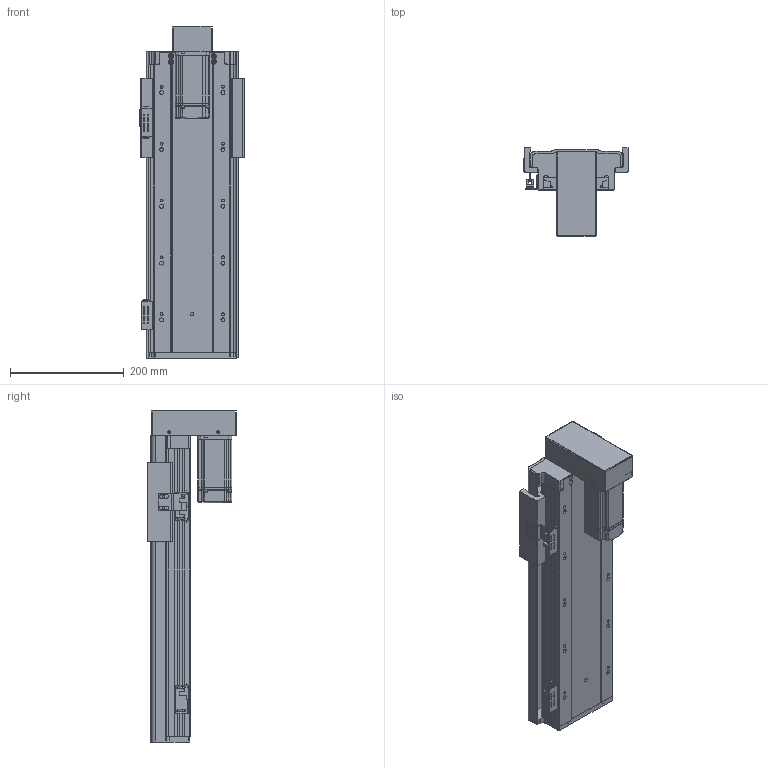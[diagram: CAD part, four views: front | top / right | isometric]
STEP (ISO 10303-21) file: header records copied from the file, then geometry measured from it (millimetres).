
FILE_DESCRIPTION (( 'STEP AP203' ), '1' );
FILE_NAME ('RY140FB-L2010-300-BK.SLDASM_300.step', '2021-02-23T02:28:28', ( '盈信电脑' ), ( '东莞市道滘镇水果街19号' ), 'SwSTEP 2.0', 'SolidWorks 2012', '' );
FILE_SCHEMA (( 'CONFIG_CONTROL_DESIGN' ));
Products named in the file (17): RY140-674嫖萇耀輸; RY140FB-L2010-300-BK.SLDASM_300; RY140FB-覜茼え; 覜茼ん674; RY140直线电机感应器674光电安装座; RY140FB-300蛌殏奻裔啣-BK; 侂狟400W侜督萇儂; RY140狟殏萇儂欶; RY140FB-20佪裝臏賑輸; RY140FB-狟殏萇儂假蚾啣; RY140FB-转折电机端支撑座(7002); 15; 滅袉蝶18-10; 滅袉蝶18-24; RY140FB-300蛌殏倰第菁釱-BK; RY140FB-綴裔啣
Assembly tree (20 placements, depth 3):
  RY140FB-L2010-300-BK.SLDASM_300
    RY140FB-300蛌殏倰第菁釱-BK
    RY140FB-綴裔啣
    滅袉蝶18-24  x2
    滅袉蝶18-10
    RY140FB-转折电机端支撑座(7002)
    侂狟400W侜督萇儂
      15
    RY140狟殏萇儂欶
    RY140FB-狟殏萇儂假蚾啣
    RY140FB-20佪裝臏賑輸
    RY140FB-300蛌殏奻裔啣-BK
    RY140-674嫖萇耀輸
      覜茼ん674  x2
      RY140直线电机感应器674光电安装座
    RY140-674嫖萇耀輸
      RY140直线电机感应器674光电安装座
      覜茼ん674
    RY140FB-覜茼え
Bounding box: 183 x 156 x 584 mm (x, y, z)
Volume: 2758454.8 mm3; surface area: 867511.1 mm2
Topology: 17 solids, 17 shells, 1658 faces, 4509 edges, 2877 vertices
Faces by surface type: cylinder 769, plane 719, cone 142, bspline 28
Entity records: 49471 total; most frequent: CARTESIAN_POINT 9807, DIRECTION 8046, ORIENTED_EDGE 7782, EDGE_CURVE 3891, AXIS2_PLACEMENT_3D 2880, VERTEX_POINT 2545, LINE 2286, VECTOR 2286
